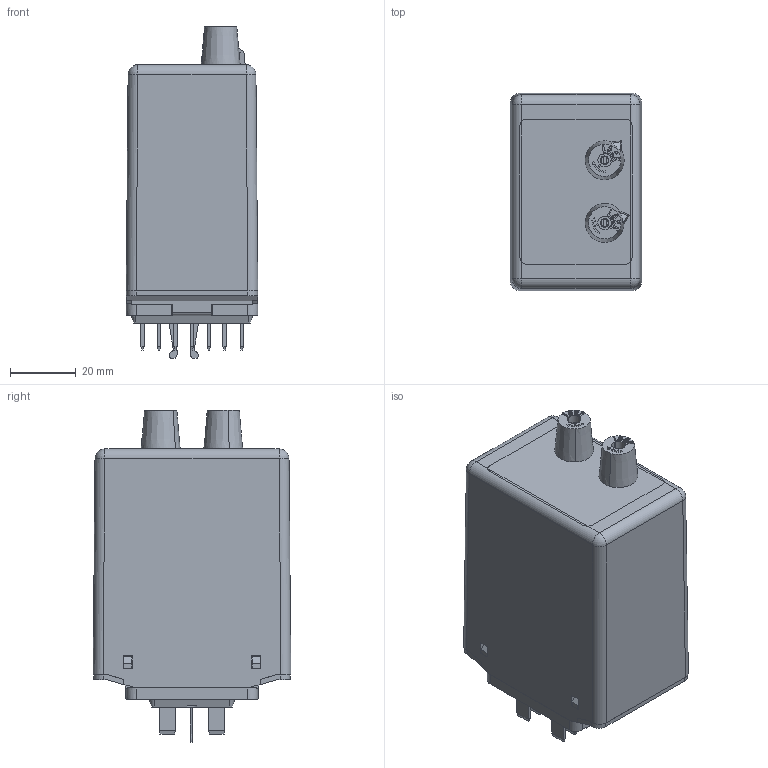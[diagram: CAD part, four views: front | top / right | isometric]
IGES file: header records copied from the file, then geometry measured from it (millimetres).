
Global section: file name: No Iges File Name specified; native system: Autodesk Inventor 2011; preprocessor: AutoDesk Inventor Iges Exporter R2011; author: oey; date: 20110307.151341; units: millimetre
Bounding box: 40 x 60.01 x 100.75 mm (x, y, z)
Volume: 44522.1 mm3; surface area: 48311.8 mm2
Topology: 1 solids, 3 shells, 1829 faces, 5425 edges, 3542 vertices
Faces by surface type: plane 846, bspline 582, revolution 197, cylinder 156, sphere 32, cone 12, torus 4
